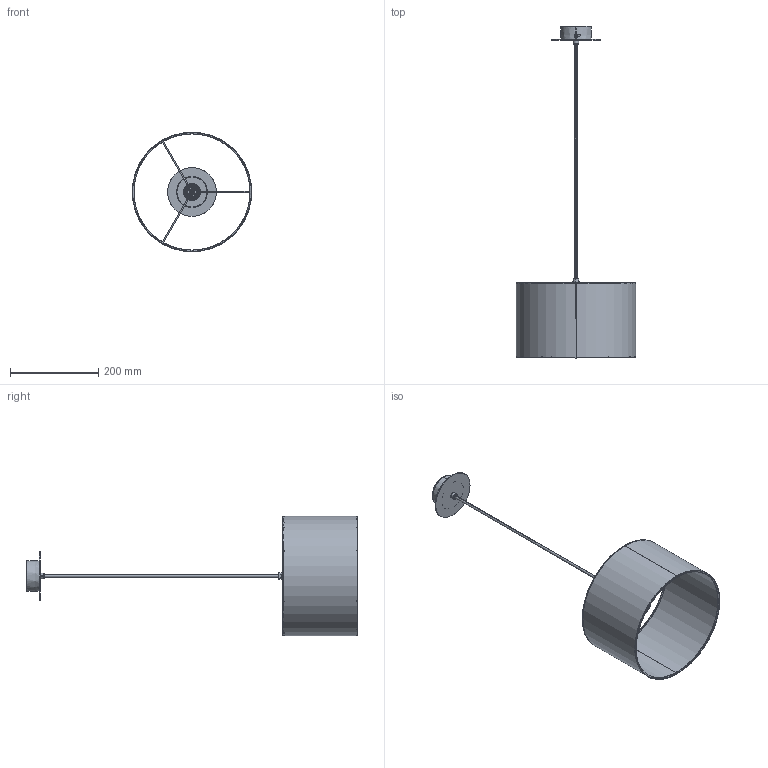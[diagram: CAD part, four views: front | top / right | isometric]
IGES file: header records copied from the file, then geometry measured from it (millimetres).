
Start section: SolidWorks IGES file using analytic representation for surfaces
Global section: file name: C:\SANTACOLE_PDM\proyectos catálogo\prod-p13-078 -- conexión sísísí simple\6_Técnico comercial\3D\Sistema sisisi PT2.IGS; native system: SolidWorks 2019; preprocessor: SolidWorks 2019; author: louis.ferraz; date: 200407.104022; units: millimetre
Bounding box: 270 x 750.92 x 270 mm (x, y, z)
Surface area: 379342.7 mm2 (no closed solid volume)
Topology: 0 solids, 0 shells, 309 faces, 4907 edges, 4907 vertices
Faces by surface type: revolution 208, bspline 101
